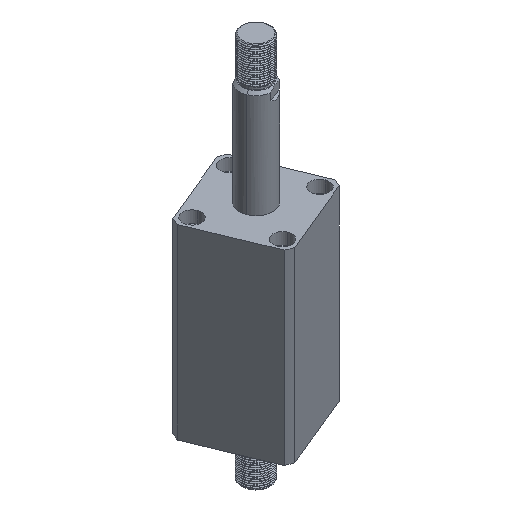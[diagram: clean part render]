
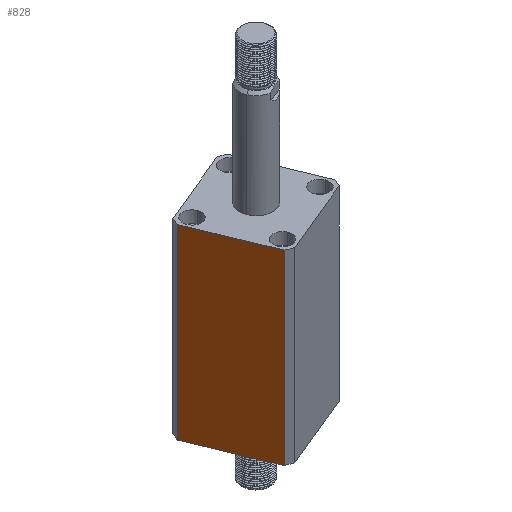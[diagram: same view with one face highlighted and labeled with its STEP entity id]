
A CAD part, isometric view. The second image highlights one B-rep face of the part: STEP entity #828.
In plain terms, the highlighted planar face has unit normal (-0.924, -0.383, 0) as drawn and (1, 0, 0) by its records, which use the part's own axes.
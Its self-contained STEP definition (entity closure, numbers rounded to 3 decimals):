
#636 = LINE ( 'NONE', #12015, #1706 ) ;
#644 = VERTEX_POINT ( 'NONE', #2564 ) ;
#781 = CARTESIAN_POINT ( 'NONE',  ( 35., 30.615, 140. ) ) ;
#828 = ADVANCED_FACE ( 'NONE', ( #13632 ), #16031, .F. ) ;
#1706 = VECTOR ( 'NONE', #10638, 1000. ) ;
#2073 = EDGE_CURVE ( 'NONE', #13937, #644, #7210, .T. ) ;
#2188 = ORIENTED_EDGE ( 'NONE', *, *, #4017, .T. ) ;
#2522 = EDGE_CURVE ( 'NONE', #644, #14355, #10586, .T. ) ;
#2564 = CARTESIAN_POINT ( 'NONE',  ( 35., -30.615, 140. ) ) ;
#4017 = EDGE_CURVE ( 'NONE', #13937, #6843, #636, .T. ) ;
#5386 = ORIENTED_EDGE ( 'NONE', *, *, #2073, .F. ) ;
#6231 = EDGE_LOOP ( 'NONE', ( #5386, #2188, #9759, #12725 ) ) ;
#6647 = CARTESIAN_POINT ( 'NONE',  ( 35., 35., 140. ) ) ;
#6843 = VERTEX_POINT ( 'NONE', #7279 ) ;
#7210 = LINE ( 'NONE', #16473, #10371 ) ;
#7279 = CARTESIAN_POINT ( 'NONE',  ( 35., 30.615, 0. ) ) ;
#8203 = DIRECTION ( 'NONE',  ( 0., 1., 0. ) ) ;
#9759 = ORIENTED_EDGE ( 'NONE', *, *, #11922, .F. ) ;
#9997 = LINE ( 'NONE', #14297, #10170 ) ;
#10170 = VECTOR ( 'NONE', #15645, 1000. ) ;
#10371 = VECTOR ( 'NONE', #16822, 1000. ) ;
#10586 = LINE ( 'NONE', #6647, #17400 ) ;
#10638 = DIRECTION ( 'NONE',  ( 0., 1., 0. ) ) ;
#11922 = EDGE_CURVE ( 'NONE', #14355, #6843, #9997, .T. ) ;
#12015 = CARTESIAN_POINT ( 'NONE',  ( 35., 35., 0. ) ) ;
#12335 = CARTESIAN_POINT ( 'NONE',  ( 35., -30.615, 0. ) ) ;
#12725 = ORIENTED_EDGE ( 'NONE', *, *, #2522, .F. ) ;
#13632 = FACE_OUTER_BOUND ( 'NONE', #6231, .T. ) ;
#13937 = VERTEX_POINT ( 'NONE', #12335 ) ;
#14056 = AXIS2_PLACEMENT_3D ( 'NONE', #17457, #15976, #15324 ) ;
#14297 = CARTESIAN_POINT ( 'NONE',  ( 35., 30.615, -160. ) ) ;
#14355 = VERTEX_POINT ( 'NONE', #781 ) ;
#15324 = DIRECTION ( 'NONE',  ( 0., -1., 0. ) ) ;
#15645 = DIRECTION ( 'NONE',  ( 0., 0., -1. ) ) ;
#15976 = DIRECTION ( 'NONE',  ( -1., 0., 0. ) ) ;
#16031 = PLANE ( 'NONE',  #14056 ) ;
#16473 = CARTESIAN_POINT ( 'NONE',  ( 35., -30.615, -160. ) ) ;
#16822 = DIRECTION ( 'NONE',  ( 0., 0., 1. ) ) ;
#17400 = VECTOR ( 'NONE', #8203, 1000. ) ;
#17457 = CARTESIAN_POINT ( 'NONE',  ( 35., 35., 140. ) ) ;
